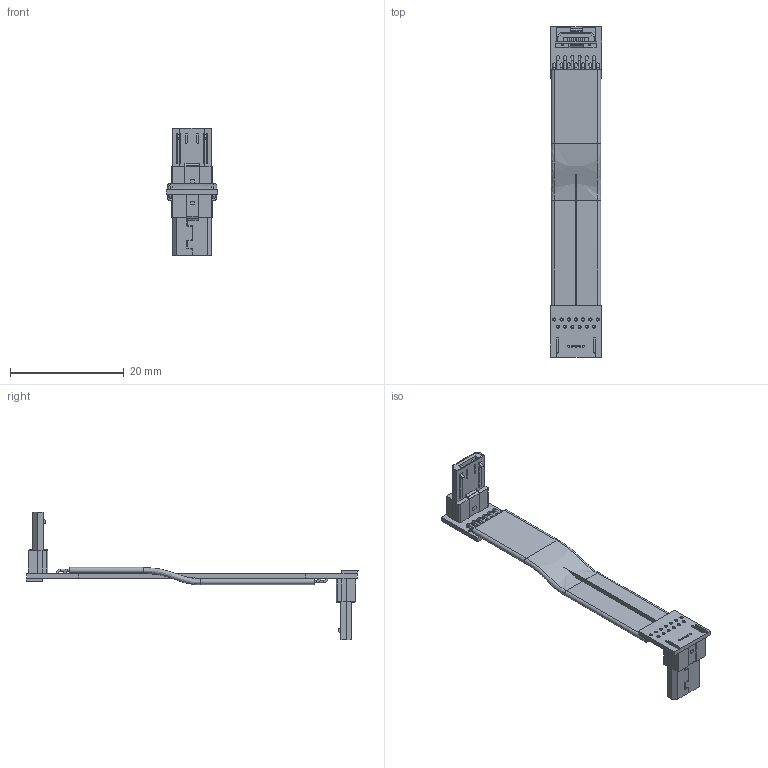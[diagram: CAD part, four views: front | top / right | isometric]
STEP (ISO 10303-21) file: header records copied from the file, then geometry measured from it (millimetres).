
FILE_DESCRIPTION(('Open CASCADE Model'),'2;1');
FILE_NAME('Open CASCADE Shape Model','2022-04-27T02:15:30',('Author'),( 'Open CASCADE'),'Open CASCADE STEP processor 6.8','Open CASCADE 6.8' ,'Unknown');
FILE_SCHEMA(('AUTOMOTIVE_DESIGN { 1 0 10303 214 1 1 1 1 }'));
Length unit declared in the file: millimetre
Products named in the file (34): PCB; Board; Open CASCADE STEP translator 6.8 6.1.1; Designator22_1; USB_micro; Designator22; Free-Models; cable13-US1A
Assembly tree (34 placements, depth 3):
  PCB
    Board
      Open CASCADE STEP translator 6.8 6.1.1
    Designator22_1
      USB_micro
    Designator22
      USB_micro
    Free-Models
      cable13-US1A
      cable13-US1A
      cable13-US1A
      cable13-US1A
      cable13-US1A
      cable13-US1A
      cable13-US1A
      cable13-US1A
      cable13-US1A
      cable13-US1A
      cable13-US1A
      cable13-US1A
      cable13-US1A
      cable13-US1A
      cable13-US1A
      cable13-US1A
      cable13-US1A
      cable13-US1A
      cable13-US1A
      cable13-US1A
      cable13-US1A
      cable13-US1A
      cable13-US1A
      cable13-US1A
      cable13-US1A
      cable13-US1A
      cable13-US1A
Bounding box: 8.96 x 58.33 x 22.36 mm (x, y, z)
Volume: 740 mm3; surface area: 2825.8 mm2
Topology: 30 solids, 30 shells, 577 faces, 1398 edges, 895 vertices
Faces by surface type: plane 355, cylinder 157, bspline 33, torus 26, extrusion 6
Full cylindrical faces by diameter (mm): 0.36 x10, 0.4 x59, 0.55 x26
Entity records: 16797 total; most frequent: CARTESIAN_POINT 3629, DIRECTION 1968, ORIENTED_EDGE 1904, EDGE_CURVE 952, AXIS2_PLACEMENT_3D 720, VERTEX_POINT 604, VECTOR 528, FACE_BOUND 526
